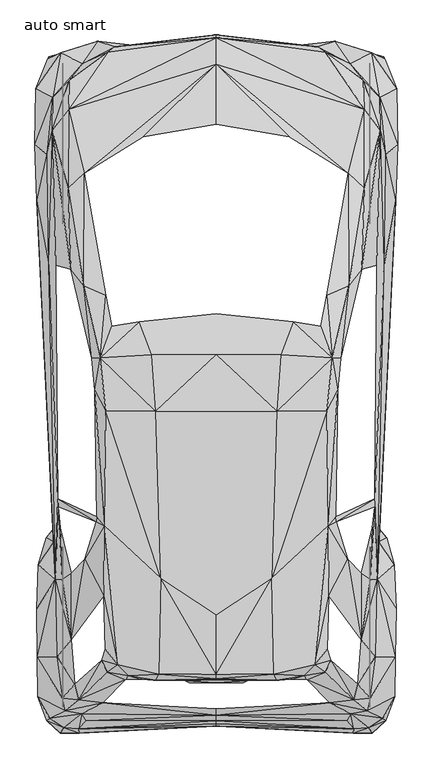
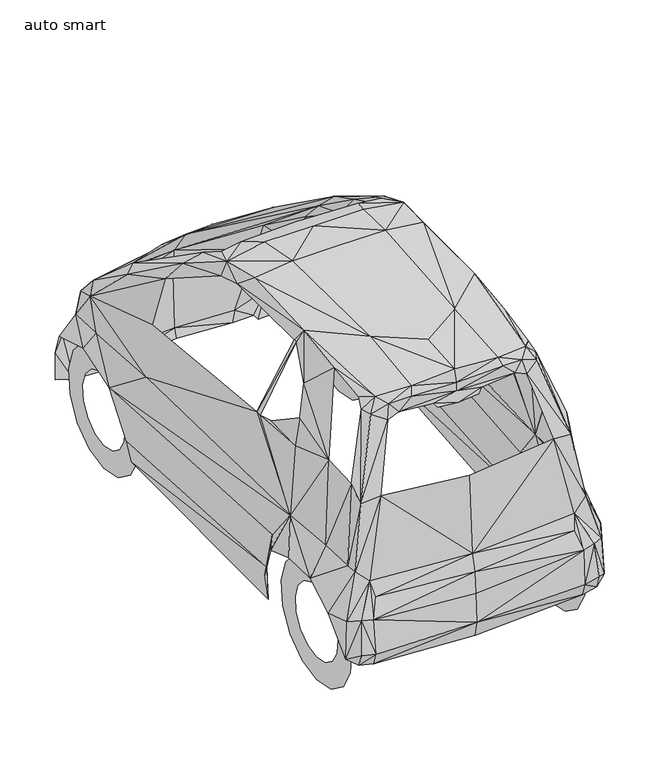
"""IFC4 building model written with IfcOpenShell, lengths in millimetres: proxy geometry, M_RPC maschio : auto smart."""

from ifc_helpers import new_model, si_unit, origin, place, context, project, spatial, triangles, source, transform, mapped, element, save


def auto_smart_939e52a2(model_context):
    return source(origin(), model_context, "Body", "Tessellation", [
        triangles([(0.0, 2087.2672176, 826.0298853), (0.0, 2183.3737061, 284.6513207), (0.0, 2167.1419933, 242.0545022), (0.0, 2195.0202335, 558.5273543), (0.0, 2184.6576393, 683.8876167), (0.0, 798.8623575, 1548.8461578), (0.0, 45.921116, 1522.9395996), (0.0, -195.0329174, 1403.7234753), (0.0, -206.4501529, 1351.7728672), (0.0, -175.4998255, 1506.6161774), (0.0, -191.456446, 1444.9447964), (0.0, 1863.0493629, 1011.044101), (0.0, 1161.5543907, 1449.209071), (0.0, 1009.9665504, 1522.9395996), (0.0, -367.8045482, 319.269829), (0.0, -359.275999, 462.3291201), (0.0, -349.6011535, 241.4584085), (0.0, -327.22523, 648.5354868), (0.0, -346.9875775, 566.5515012), (537.9396212, -46.700606, 1147.1796867), (338.2527183, -195.9499762, 1373.3692234), (283.3216053, -193.3363821, 1395.6076916), (403.4088793, -168.7595392, 1407.5751297), (0.0, -303.9780843, 1035.7585081), (664.4462162, -111.7192255, 621.5742691), (666.4178982, 67.4258626, 620.3362633), (590.3947042, -111.1231409, 766.4218231), (510.0155625, -269.8180873, 1046.2128119), (547.7978857, 1919.7685753, 880.8692705), (607.7268949, 1841.2235149, 867.9388824), (545.4135836, 2027.3381721, 761.3322355), (628.0394995, 1753.2787376, 738.1768175), (586.7723599, 444.9740384, 1095.0913691), (596.3096775, 177.5173259, 747.1179869), (571.274287, 176.9671051, 1095.6416262), (622.0328167, 1342.9002983, 757.5723633), (646.334531, 1470.6908993, 362.7378516), (631.0199135, 1452.4415771, 258.1486688), (665.4091661, 1579.9111221, 577.051696), (276.0310802, 2152.8819626, 298.3153122), (514.2339824, 2143.2071171, 225.1349862), (439.4029758, 2171.9105976, 334.5845192), (625.5634878, 2105.9291599, 423.7214476), (576.868277, 2129.13036, 482.2290318), (382.1333974, 2139.4930996, 221.7877705), (255.856058, 2141.4188541, 246.1812125), (362.2793404, 2144.0323574, 247.5567826), (620.8406656, 2114.0449436, 276.8564295), (375.8516224, 2150.4059509, 581.2242611), (497.4978673, 2087.5423462, 616.392972), (403.2254602, 2130.0933826, 704.8421516), (606.8556908, 1964.7956234, 700.577877), (672.470363, 1787.1637333, 655.9635218), (670.0860609, 1994.9664562, 591.7702744), (594.3838503, 376.012114, 358.5194318), (602.4080335, 315.6245573, 564.2588722), (660.5487797, 230.0182637, 556.9225104), (631.3408241, 329.9763702, 358.3360127), (600.6656253, 354.2322298, 208.9949648), (365.5807014, -141.248128, 1472.547908), (223.7135613, -198.4718426, 1456.1327763), (324.0384696, -180.3143209, 1441.8726002), (212.4338901, -176.27932, 1491.9433811), (224.5847473, 799.8710896, 1547.0578949), (205.0516554, 180.2226113, 1527.5247849), (115.7312989, -198.9762268, 1383.2274879), (99.6371323, -207.8715777, 1362.3646626), (239.5784723, 1008.3158518, 1524.269315), (284.8805763, 1131.2459936, 1464.7071075), (595.713602, 1341.5248009, 1019.7101418), (539.5903198, 1326.6685856, 1244.9368011), (491.2619471, 1265.7308807, 1345.7203297), (461.4579523, 996.8527433, 1434.2611462), (489.56543, 1682.7121147, 1094.7246037), (549.5861486, 1625.7634106, 1091.4690611), (270.7122006, 1817.6554768, 1031.3108145), (412.3959397, -83.1990641, 1448.7045959), (444.6301277, 390.4097454, 1457.4165642), (537.5269647, 198.4718426, 1213.9406553), (587.7811283, 475.2823992, 1094.3577656), (578.5189393, 367.1626179, 1111.9650484), (443.7589236, 408.062883, 1455.3531727), (409.1862883, 799.6418884, 1524.269315), (449.6738969, 877.5449821, 1461.3599281), (416.1099572, 374.6823987, 1514.3193409), (430.5076249, 998.320023, 1497.9499912), (410.5160036, 1230.149477, 1395.4242725), (387.3605493, 1114.3723143, 1463.7442303), (417.7606559, 115.6166711, 1480.0217251), (486.8601445, 250.6518153, 1342.6481335), (424.9594897, -123.2281614, 1413.4442482), (421.2912907, -281.6021427, 1063.5449661), (560.499, -310.9476262, 740.882103), (482.8709621, -347.1709966, 606.6264533), (498.0480881, -322.1356061, 677.6058781), (507.3102771, -371.2434734, 285.293251), (628.0394995, -347.3085245, 336.1893631), (510.1531268, -378.2588519, 515.5636977), (618.1353802, -337.9088076, 519.1401873), (507.9063526, -393.2067404, 348.386075), (577.9687185, -393.4818326, 365.0763353), (577.9687185, -370.4181241, 300.8371968), (565.6344423, -373.3985018, 528.3564852), (661.9702045, -259.4554567, 530.2823124), (570.3572282, -263.9031322, 746.8887131), (524.4131939, -212.365108, 1120.5853071), (-537.9396212, -46.700606, 1147.1796867), (-338.2527183, -195.9499762, 1373.3692234), (-283.3216053, -193.3363821, 1395.6076916), (-403.4088793, -168.7595392, 1407.5751297), (-664.4462162, -111.7192255, 621.5742691), (-666.4178982, 67.4258626, 620.3362633), (-590.3947042, -111.1231409, 766.4218231), (-510.0155625, -269.8180873, 1046.2128119), (-547.7978857, 1919.7685753, 880.8692705), (-607.7268949, 1841.2235149, 867.9388824), (-545.4135836, 2027.3381721, 761.3322355), (-628.0394995, 1753.2787376, 738.1768175), (-586.7723599, 444.9740384, 1095.0913691), (-596.3096775, 177.5173259, 747.1179869), (-571.274287, 176.9671051, 1095.6416262), (-622.0328167, 1342.9002983, 757.5723633), (-646.334531, 1470.6908993, 362.7378516), (-631.0199135, 1452.4415771, 258.1486688), (-665.4091661, 1579.9111221, 577.051696), (-276.0310802, 2152.8819626, 298.3153122), (-514.2339824, 2143.2071171, 225.1349862), (-439.4029758, 2171.9105976, 334.5845192), (-625.5634878, 2105.9291599, 423.7214476), (-576.868277, 2129.13036, 482.2290318), (-382.1333974, 2139.4930996, 221.7877705), (-255.856058, 2141.4188541, 246.1812125), (-362.2793404, 2144.0323574, 247.5567826), (-620.8406656, 2114.0449436, 276.8564295), (-375.8516224, 2150.4059509, 581.2242611), (-497.4978673, 2087.5423462, 616.392972), (-403.2254602, 2130.0933826, 704.8421516), (-606.8556908, 1964.7956234, 700.577877), (-672.470363, 1787.1637333, 655.9635218), (-670.0860609, 1994.9664562, 591.7702744), (-594.3838503, 376.012114, 358.5194318), (-602.4080335, 315.6245573, 564.2588722), (-660.5487797, 230.0182637, 556.9225104), (-631.3408241, 329.9763702, 358.3360127), (-600.6656253, 354.2322298, 208.9949648), (-365.5807014, -141.248128, 1472.547908), (-223.7135613, -198.4718426, 1456.1327763), (-324.0384696, -180.3143209, 1441.8726002), (-212.4338901, -176.27932, 1491.9433811), (-224.5847473, 799.8710896, 1547.0578949), (-205.0516554, 180.2226113, 1527.5247849), (-115.7312989, -198.9762268, 1383.2274879), (-99.6371323, -207.8715777, 1362.3646626), (-239.5784723, 1008.3158518, 1524.269315), (-284.8805763, 1131.2459936, 1464.7071075), (-595.713602, 1341.5248009, 1019.7101418), (-539.5903198, 1326.6685856, 1244.9368011), (-491.2619471, 1265.7308807, 1345.7203297), (-461.4579523, 996.8527433, 1434.2611462), (-489.56543, 1682.7121147, 1094.7246037), (-549.5861486, 1625.7634106, 1091.4690611), (-270.7580554, 1817.6554768, 1031.3108145), (-412.3959397, -83.2449188, 1448.7045959), (-444.6301277, 390.4097454, 1457.4165642), (-537.5269647, 198.4718426, 1213.9406553), (-587.7811283, 475.2823992, 1094.3577656), (-578.5189393, 367.1626179, 1111.9650484), (-443.7589236, 408.062883, 1455.3531727), (-409.1862883, 799.6418884, 1524.269315), (-449.6738969, 877.5449821, 1461.3599281), (-416.1099572, 374.6823987, 1514.3193409), (-430.5534433, 998.320023, 1497.9499912), (-410.5160036, 1230.149477, 1395.4242725), (-387.3605493, 1114.3723143, 1463.7442303), (-417.7606559, 115.6166711, 1480.0217251), (-486.8601445, 250.6518153, 1342.6481335), (-424.9594897, -123.2281614, 1413.4442482), (-421.2912907, -281.6021427, 1063.5449661), (-560.499, -310.9476262, 740.882103), (-482.8709621, -347.1709966, 606.6264533), (-498.0480881, -322.1356061, 677.6058781), (-507.3102771, -371.2434734, 285.293251), (-628.0853542, -347.3085245, 336.1893631), (-510.1531268, -378.2588519, 515.5636977), (-618.1353802, -337.9088076, 519.1401873), (-507.9063526, -393.2067404, 348.386075), (-577.9687185, -393.4818326, 365.0763353), (-577.9687185, -370.4181241, 300.8371968), (-565.6344423, -373.3985018, 528.3564852), (-661.9702045, -259.4554567, 530.2823124), (-570.3572282, -263.9031322, 746.8887131), (-524.4131939, -212.365108, 1120.5853071), (-569.9124879, 1792.1983097, -0.0091705), (-569.9124879, 1792.1983097, 116.3182089), (-569.9124879, 1913.8903004, 25.8515493), (-569.9124879, 1866.570805, 132.0914195), (-569.9124879, 2014.4904099, 98.9860274), (-569.9124879, 1928.0587669, 176.7974389), (-569.9124879, 2076.712048, 206.6931795), (-569.9124879, 1966.1161823, 242.6414031), (-569.9124879, 2089.6882908, 330.4027977), (-569.9124879, 1974.0486923, 318.2519042), (-569.9124879, 2051.2640373, 448.7018269), (-569.9124879, 1950.5264362, 390.5610443), (-569.9124879, 1968.0419369, 541.185971), (-569.9124879, 1899.6761971, 447.0511282), (-569.9124879, 1854.3740204, 591.7611179), (-569.9124879, 1830.2097977, 478.0014556), (-569.9124879, 1730.0224537, 591.7611179), (-569.9124879, 1754.1866764, 478.0014556), (-569.9124879, 1616.3545372, 541.185971), (-569.9124879, 1684.7204224, 447.0511282), (-569.9124879, 1533.1325821, 448.7018269), (-569.9124879, 1633.8701832, 390.5610443), (-569.9124879, 1494.7083286, 330.4027977), (-569.9124879, 1610.3479271, 318.2519042), (-569.9124879, 1507.6845715, 206.6931795), (-569.9124879, 1618.2802917, 242.6414031), (-569.9124879, 1569.9060642, 98.9860274), (-569.9124879, 1656.3378525, 176.7974389), (-569.9124879, 1670.5061737, 25.8515493), (-569.9124879, 1717.8258144, 132.0914195), (569.9124879, 1792.1983097, -0.0091705), (569.9124879, 1792.1983097, 116.3182089), (569.9124879, 1670.5061737, 25.8515493), (569.9124879, 1717.8258144, 132.0914195), (569.9124879, 1569.9060642, 98.9860274), (569.9124879, 1656.3378525, 176.7974389), (569.9124879, 1507.6845715, 206.6931795), (569.9124879, 1618.2802917, 242.6414031), (569.9124879, 1494.7083286, 330.4027977), (569.9124879, 1610.3479271, 318.2519042), (569.9124879, 1533.1325821, 448.7018269), (569.9124879, 1633.8701832, 390.5610443), (569.9124879, 1616.3545372, 541.185971), (569.9124879, 1684.7204224, 447.0511282), (569.9124879, 1730.0224537, 591.7611179), (569.9124879, 1754.1866764, 478.0014556), (569.9124879, 1854.3740204, 591.7611179), (569.9124879, 1830.2097977, 478.0014556), (569.9124879, 1968.0419369, 541.185971), (569.9124879, 1899.6761971, 447.0511282), (569.9124879, 2051.2640373, 448.7018269), (569.9124879, 1950.5264362, 390.5610443), (569.9124879, 2089.6882908, 330.4027977), (569.9124879, 1974.0486923, 318.2519042), (569.9124879, 2076.712048, 206.6931795), (569.9124879, 1966.1161823, 242.6414031), (569.9124879, 2014.4904099, 98.9860274), (569.9124879, 1928.0587669, 176.7974389), (569.9124879, 1913.8903004, 25.8515493), (569.9124879, 1866.570805, 132.0914195), (-569.9124879, 0.0, -0.0091705), (-569.9124879, 0.0, 116.3182089), (-569.9124879, 121.6921088, 25.8515493), (-569.9124879, 74.3724953, 132.0914195), (-569.9124879, 222.2921365, 98.9860274), (-569.9124879, 135.8604754, 176.7974389), (-569.9124879, 284.5137564, 206.6931795), (-569.9124879, 173.9179271, 242.6414031), (-569.9124879, 297.4899811, 330.4027977), (-569.9124879, 181.8503826, 318.2519042), (-569.9124879, 259.0657094, 448.7018269), (-569.9124879, 158.3281265, 390.5610443), (-569.9124879, 175.843718, 541.185971), (-569.9124879, 107.4778783, 447.0511282), (-569.9124879, 62.1757697, 591.7611179), (-569.9124879, 38.0115879, 478.0014556), (-569.9124879, -62.1757697, 591.7611179), (-569.9124879, -38.0115879, 478.0014556), (-569.9124879, -175.843718, 541.185971), (-569.9124879, -107.4778783, 447.0511282), (-569.9124879, -259.0657094, 448.7018269), (-569.9124879, -158.3281265, 390.5610443), (-569.9124879, -297.4899811, 330.4027977), (-569.9124879, -181.8503826, 318.2519042), (-569.9124879, -284.5137564, 206.6931795), (-569.9124879, -173.9179271, 242.6414031), (-569.9124879, -222.2921365, 98.9860274), (-569.9124879, -135.8604754, 176.7974389), (-569.9124879, -121.6921088, 25.8515493), (-569.9124879, -74.3724953, 132.0914195), (569.9124879, 0.0, -0.0091705), (569.9124879, 0.0, 116.3182089), (569.9124879, -121.6921088, 25.8515493), (569.9124879, -74.3724953, 132.0914195), (569.9124879, -222.2921365, 98.9860274), (569.9124879, -135.8604754, 176.7974389), (569.9124879, -284.5137564, 206.6931795), (569.9124879, -173.9179271, 242.6414031), (569.9124879, -297.4899811, 330.4027977), (569.9124879, -181.8503826, 318.2519042), (569.9124879, -259.0657094, 448.7018269), (569.9124879, -158.3281265, 390.5610443), (569.9124879, -175.843718, 541.185971), (569.9124879, -107.4778783, 447.0511282), (569.9124879, -62.1757697, 591.7611179), (569.9124879, -38.0115879, 478.0014556), (569.9124879, 62.1757697, 591.7611179), (569.9124879, 38.0115879, 478.0014556), (569.9124879, 175.843718, 541.185971), (569.9124879, 107.4778783, 447.0511282), (569.9124879, 259.0657094, 448.7018269), (569.9124879, 158.3281265, 390.5610443), (569.9124879, 297.4899811, 330.4027977), (569.9124879, 181.8503826, 318.2519042), (569.9124879, 284.5137564, 206.6931795), (569.9124879, 173.9179271, 242.6414031), (569.9124879, 222.2921365, 98.9860274), (569.9124879, 135.8604754, 176.7974389), (569.9124879, 121.6921088, 25.8515493), (569.9124879, 74.3724953, 132.0914195)], [[62, 22, 21], [62, 21, 23], [91, 23, 28], [34, 27, 25], [34, 25, 26], [106, 27, 20], [21, 92, 28], [21, 28, 23], [105, 104, 25], [27, 105, 25], [106, 105, 27], [29, 31, 51], [29, 30, 31], [30, 52, 31], [75, 30, 29], [30, 70, 36], [30, 36, 32], [33, 35, 34], [34, 39, 36], [80, 34, 36], [70, 80, 36], [32, 36, 39], [42, 50, 44], [41, 44, 43], [41, 43, 48], [42, 41, 45], [47, 42, 45], [42, 44, 41], [2, 40, 46], [3, 2, 46], [40, 42, 47], [46, 40, 47], [49, 50, 42], [40, 49, 42], [51, 31, 50], [49, 51, 50], [49, 4, 5], [49, 5, 51], [40, 2, 4], [40, 4, 49], [29, 51, 5], [29, 5, 1], [32, 39, 53], [44, 52, 54], [44, 54, 43], [52, 32, 53], [52, 53, 54], [30, 32, 52], [50, 31, 52], [44, 50, 52], [55, 37, 56], [56, 37, 39], [56, 57, 58], [55, 56, 58], [59, 38, 55], [38, 37, 55], [59, 55, 58], [56, 34, 57], [26, 57, 34], [61, 22, 62], [63, 61, 62], [63, 62, 60], [85, 63, 60], [65, 63, 85], [14, 6, 64], [14, 64, 68], [7, 65, 64], [7, 64, 6], [65, 10, 63], [7, 10, 65], [9, 66, 8], [67, 66, 9], [22, 8, 66], [11, 61, 63], [10, 11, 63], [61, 11, 8], [22, 61, 8], [14, 68, 69], [14, 69, 13], [70, 30, 71], [75, 72, 71], [75, 71, 30], [74, 87, 72], [74, 72, 75], [72, 86, 73], [72, 73, 71], [12, 76, 1], [74, 75, 29], [74, 29, 1], [76, 74, 1], [20, 90, 89], [20, 79, 90], [81, 79, 35], [35, 20, 34], [20, 27, 34], [20, 35, 79], [33, 81, 35], [80, 82, 78], [80, 78, 33], [85, 82, 84], [85, 84, 83], [83, 64, 65], [85, 83, 65], [86, 83, 84], [86, 84, 73], [88, 69, 86], [69, 68, 86], [87, 88, 86], [87, 86, 72], [86, 68, 64], [86, 64, 83], [60, 77, 89], [60, 89, 85], [85, 78, 82], [78, 85, 90], [89, 90, 85], [60, 91, 77], [62, 23, 60], [60, 23, 91], [105, 106, 28], [105, 28, 93], [93, 28, 92], [93, 92, 95], [92, 24, 18], [95, 92, 18], [19, 16, 98], [94, 19, 98], [94, 95, 18], [94, 18, 19], [15, 17, 96], [15, 96, 100], [16, 15, 98], [15, 100, 98], [103, 98, 100], [103, 100, 101], [103, 101, 97], [103, 97, 99], [99, 97, 104], [102, 101, 100], [102, 100, 96], [101, 102, 97], [103, 95, 98], [99, 93, 95], [93, 99, 104], [93, 104, 105], [95, 94, 98], [99, 95, 103], [91, 28, 106], [80, 33, 34], [39, 34, 56], [148, 108, 109], [148, 110, 108], [177, 114, 110], [120, 111, 113], [120, 112, 111], [192, 107, 113], [108, 114, 178], [108, 110, 114], [191, 111, 190], [113, 111, 191], [192, 113, 191], [115, 137, 117], [115, 117, 116], [116, 117, 138], [161, 115, 116], [116, 122, 156], [116, 118, 122], [119, 120, 121], [120, 122, 125], [166, 122, 120], [156, 122, 166], [118, 125, 122], [128, 130, 136], [127, 129, 130], [127, 134, 129], [128, 131, 127], [133, 131, 128], [128, 127, 130], [2, 132, 126], [3, 132, 2], [126, 133, 128], [132, 133, 126], [135, 128, 136], [126, 128, 135], [137, 136, 117], [135, 136, 137], [135, 5, 4], [135, 137, 5], [126, 4, 2], [126, 135, 4], [115, 5, 137], [115, 1, 5], [118, 139, 125], [130, 140, 138], [130, 129, 140], [138, 139, 118], [138, 140, 139], [116, 138, 118], [136, 138, 117], [130, 138, 136], [141, 142, 123], [142, 125, 123], [142, 144, 143], [141, 144, 142], [145, 141, 124], [124, 141, 123], [145, 144, 141], [142, 143, 120], [112, 120, 143], [147, 148, 109], [149, 148, 147], [149, 146, 148], [151, 171, 149], [149, 171, 146], [14, 150, 6], [14, 154, 150], [7, 150, 151], [7, 6, 150], [7, 151, 10], [10, 151, 149], [9, 8, 152], [153, 9, 152], [109, 152, 8], [11, 149, 147], [10, 149, 11], [147, 8, 11], [109, 8, 147], [14, 155, 154], [14, 13, 155], [156, 157, 116], [161, 157, 158], [161, 116, 157], [160, 158, 173], [160, 161, 158], [158, 159, 172], [158, 157, 159], [12, 1, 162], [160, 115, 161], [160, 1, 115], [162, 1, 160], [107, 175, 176], [107, 176, 165], [167, 121, 165], [121, 120, 107], [107, 120, 113], [107, 165, 121], [119, 121, 167], [166, 164, 168], [166, 119, 164], [171, 170, 168], [171, 169, 170], [169, 151, 150], [171, 151, 169], [172, 170, 169], [172, 159, 170], [174, 172, 155], [155, 172, 154], [173, 172, 174], [173, 158, 172], [172, 150, 154], [172, 169, 150], [146, 175, 163], [146, 171, 175], [171, 168, 164], [164, 176, 171], [175, 171, 176], [146, 163, 177], [148, 146, 110], [146, 177, 110], [191, 114, 192], [191, 179, 114], [179, 178, 114], [179, 181, 178], [178, 18, 24], [181, 18, 178], [19, 184, 16], [180, 184, 19], [180, 18, 181], [180, 19, 18], [15, 182, 17], [15, 186, 182], [16, 184, 15], [15, 184, 186], [189, 186, 184], [189, 187, 186], [189, 183, 187], [189, 185, 183], [185, 190, 183], [188, 186, 187], [188, 182, 186], [187, 183, 188], [189, 184, 181], [185, 181, 179], [179, 190, 185], [179, 191, 190], [181, 184, 180], [185, 189, 181], [177, 192, 114], [166, 120, 119], [125, 142, 120], [193, 196, 195], [193, 194, 196], [195, 198, 197], [195, 196, 198], [197, 200, 199], [197, 198, 200], [199, 202, 201], [199, 200, 202], [201, 204, 203], [201, 202, 204], [203, 206, 205], [203, 204, 206], [205, 208, 207], [205, 206, 208], [207, 210, 209], [207, 208, 210], [209, 212, 211], [209, 210, 212], [211, 214, 213], [211, 212, 214], [213, 216, 215], [213, 214, 216], [215, 218, 217], [215, 216, 218], [217, 220, 219], [217, 218, 220], [219, 222, 221], [219, 220, 222], [221, 194, 193], [221, 222, 194], [223, 226, 225], [223, 224, 226], [225, 228, 227], [225, 226, 228], [227, 230, 229], [227, 228, 230], [229, 232, 231], [229, 230, 232], [231, 234, 233], [231, 232, 234], [233, 236, 235], [233, 234, 236], [235, 238, 237], [235, 236, 238], [237, 240, 239], [237, 238, 240], [239, 242, 241], [239, 240, 242], [241, 244, 243], [241, 242, 244], [243, 246, 245], [243, 244, 246], [245, 248, 247], [245, 246, 248], [247, 250, 249], [247, 248, 250], [249, 252, 251], [249, 250, 252], [251, 224, 223], [251, 252, 224], [253, 256, 255], [253, 254, 256], [255, 258, 257], [255, 256, 258], [257, 260, 259], [257, 258, 260], [259, 262, 261], [259, 260, 262], [261, 264, 263], [261, 262, 264], [263, 266, 265], [263, 264, 266], [265, 268, 267], [265, 266, 268], [267, 270, 269], [267, 268, 270], [269, 272, 271], [269, 270, 272], [271, 274, 273], [271, 272, 274], [273, 276, 275], [273, 274, 276], [275, 278, 277], [275, 276, 278], [277, 280, 279], [277, 278, 280], [279, 282, 281], [279, 280, 282], [281, 254, 253], [281, 282, 254], [283, 286, 285], [283, 284, 286], [285, 288, 287], [285, 286, 288], [287, 290, 289], [287, 288, 290], [289, 292, 291], [289, 290, 292], [291, 294, 293], [291, 292, 294], [293, 296, 295], [293, 294, 296], [295, 298, 297], [295, 296, 298], [297, 300, 299], [297, 298, 300], [299, 302, 301], [299, 300, 302], [301, 304, 303], [301, 302, 304], [303, 306, 305], [303, 304, 306], [305, 308, 307], [305, 306, 308], [307, 310, 309], [307, 308, 310], [309, 312, 311], [309, 310, 312], [311, 284, 283], [311, 312, 284]], closed=False),
    ])


if __name__ == "__main__":
    model = new_model("IFC4")
    model_context = context("Model", 3, world=origin())
    ifc_project = project(units=[si_unit("LENGTHUNIT", "METRE", prefix="MILLI")], contexts=[model_context])
    site = spatial("IfcSite", under=ifc_project)
    building = spatial("IfcBuilding", under=site)
    placement = place(None, origin())
    auto_smart_shape = auto_smart_939e52a2(model_context)
    element("IfcBuildingElementProxy", 1, Name="M_RPC maschio : auto smart", ObjectType="M_RPC maschio : auto smart", at=placement, inside=building, context=model_context, shape_type="MappedRepresentation", body=[
        mapped(auto_smart_shape, transform((0.0, 0.0, 0.0), x_axis=(1.0, 0.0, 0.0), y_axis=(0.0, 1.0, 0.0), z_axis=(0.0, 0.0, 1.0))),
    ])
    save(model, "model.ifc")
